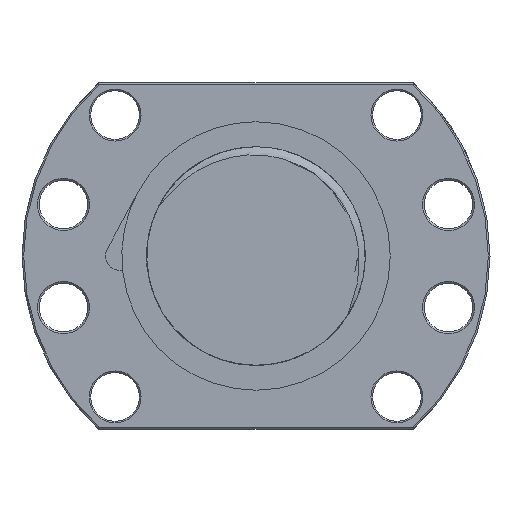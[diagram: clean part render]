
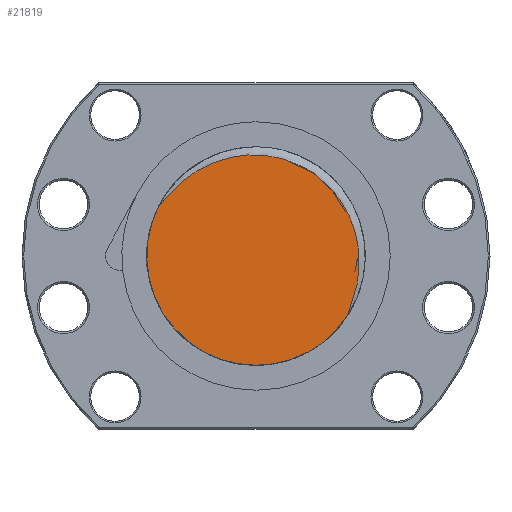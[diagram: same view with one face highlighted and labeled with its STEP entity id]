
A CAD part, left-side view. The second image highlights one B-rep face of the part: STEP entity #21819.
In plain terms, the highlighted planar face has unit normal (-1, 0, 0).
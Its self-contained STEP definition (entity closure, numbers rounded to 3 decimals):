
#7011 = CARTESIAN_POINT ( 'NONE',  ( -224., 28.085, 14.264 ) ) ;
#7012 = CARTESIAN_POINT ( 'NONE',  ( -224., 27.747, 14.64 ) ) ;
#7013 = CARTESIAN_POINT ( 'NONE',  ( -224., 27.424, 15.031 ) ) ;
#7014 = CARTESIAN_POINT ( 'NONE',  ( -224., 26.775, 15.808 ) ) ;
#7015 = CARTESIAN_POINT ( 'NONE',  ( -224., 26.451, 16.197 ) ) ;
#7016 = CARTESIAN_POINT ( 'NONE',  ( -224., 25.464, 17.351 ) ) ;
#7017 = CARTESIAN_POINT ( 'NONE',  ( -224., 24.786, 18.107 ) ) ;
#7018 = CARTESIAN_POINT ( 'NONE',  ( -224., 22.683, 20.285 ) ) ;
#7019 = CARTESIAN_POINT ( 'NONE',  ( -224., 21.185, 21.622 ) ) ;
#7020 = CARTESIAN_POINT ( 'NONE',  ( -224., 18.766, 23.421 ) ) ;
#7021 = CARTESIAN_POINT ( 'NONE',  ( -224., 17.931, 23.986 ) ) ;
#7022 = CARTESIAN_POINT ( 'NONE',  ( -224., 16.633, 24.779 ) ) ;
#7023 = CARTESIAN_POINT ( 'NONE',  ( -224., 16.194, 25.034 ) ) ;
#7024 = CARTESIAN_POINT ( 'NONE',  ( -224., 15.309, 25.521 ) ) ;
#7025 = CARTESIAN_POINT ( 'NONE',  ( -224., 14.862, 25.753 ) ) ;
#7026 = CARTESIAN_POINT ( 'NONE',  ( -224., 12.606, 26.86 ) ) ;
#7027 = CARTESIAN_POINT ( 'NONE',  ( -224., 10.732, 27.572 ) ) ;
#7028 = CARTESIAN_POINT ( 'NONE',  ( -224., 7.813, 28.367 ) ) ;
#7029 = CARTESIAN_POINT ( 'NONE',  ( -224., 6.817, 28.587 ) ) ;
#7030 = CARTESIAN_POINT ( 'NONE',  ( -224., 4.827, 28.925 ) ) ;
#7033 = CARTESIAN_POINT ( 'NONE',  ( -224., 3.83, 29.045 ) ) ;
#7034 = CARTESIAN_POINT ( 'NONE',  ( -224., 1.83, 29.187 ) ) ;
#7035 = CARTESIAN_POINT ( 'NONE',  ( -224., 0.828, 29.209 ) ) ;
#7036 = CARTESIAN_POINT ( 'NONE',  ( -224., -1.181, 29.153 ) ) ;
#7037 = CARTESIAN_POINT ( 'NONE',  ( -224., -2.19, 29.076 ) ) ;
#7038 = CARTESIAN_POINT ( 'NONE',  ( -224., -5.21, 28.692 ) ) ;
#7039 = CARTESIAN_POINT ( 'NONE',  ( -224., -7.165, 28.24 ) ) ;
#7040 = CARTESIAN_POINT ( 'NONE',  ( -224., -10.015, 27.278 ) ) ;
#7041 = CARTESIAN_POINT ( 'NONE',  ( -224., -10.95, 26.909 ) ) ;
#7042 = CARTESIAN_POINT ( 'NONE',  ( -224., -12.332, 26.283 ) ) ;
#7043 = CARTESIAN_POINT ( 'NONE',  ( -224., -12.791, 26.062 ) ) ;
#7044 = CARTESIAN_POINT ( 'NONE',  ( -224., -13.691, 25.598 ) ) ;
#7045 = CARTESIAN_POINT ( 'NONE',  ( -224., -14.134, 25.356 ) ) ;
#7046 = CARTESIAN_POINT ( 'NONE',  ( -224., -16.31, 24.094 ) ) ;
#7047 = CARTESIAN_POINT ( 'NONE',  ( -224., -17.933, 22.921 ) ) ;
#7048 = CARTESIAN_POINT ( 'NONE',  ( -224., -19.816, 21.253 ) ) ;
#7049 = CARTESIAN_POINT ( 'NONE',  ( -224., -20.186, 20.909 ) ) ;
#7050 = CARTESIAN_POINT ( 'NONE',  ( -224., -20.909, 20.201 ) ) ;
#7051 = CARTESIAN_POINT ( 'NONE',  ( -224., -21.264, 19.836 ) ) ;
#7058 = CARTESIAN_POINT ( 'NONE',  ( -224., -22.294, 18.722 ) ) ;
#7059 = CARTESIAN_POINT ( 'NONE',  ( -224., -22.937, 17.951 ) ) ;
#7060 = CARTESIAN_POINT ( 'NONE',  ( -224., -24.747, 15.552 ) ) ;
#7061 = CARTESIAN_POINT ( 'NONE',  ( -224., -25.793, 13.843 ) ) ;
#7062 = CARTESIAN_POINT ( 'NONE',  ( -224., -26.893, 11.564 ) ) ;
#7063 = CARTESIAN_POINT ( 'NONE',  ( -224., -27.103, 11.101 ) ) ;
#7064 = CARTESIAN_POINT ( 'NONE',  ( -224., -27.496, 10.17 ) ) ;
#7065 = CARTESIAN_POINT ( 'NONE',  ( -224., -27.681, 9.702 ) ) ;
#7066 = CARTESIAN_POINT ( 'NONE',  ( -224., -28.199, 8.288 ) ) ;
#7067 = CARTESIAN_POINT ( 'NONE',  ( -224., -28.497, 7.335 ) ) ;
#7068 = CARTESIAN_POINT ( 'NONE',  ( -224., -29.252, 4.442 ) ) ;
#7069 = CARTESIAN_POINT ( 'NONE',  ( -224., -29.571, 2.47 ) ) ;
#7070 = CARTESIAN_POINT ( 'NONE',  ( -224., -29.737, -0.05 ) ) ;
#7071 = CARTESIAN_POINT ( 'NONE',  ( -224., -29.758, -0.558 ) ) ;
#7072 = CARTESIAN_POINT ( 'NONE',  ( -224., -29.778, -1.569 ) ) ;
#7073 = CARTESIAN_POINT ( 'NONE',  ( -224., -29.775, -2.073 ) ) ;
#7074 = CARTESIAN_POINT ( 'NONE',  ( -224., -29.734, -3.581 ) ) ;
#7075 = CARTESIAN_POINT ( 'NONE',  ( -224., -29.662, -4.579 ) ) ;
#7076 = CARTESIAN_POINT ( 'NONE',  ( -224., -29.314, -7.554 ) ) ;
#7077 = CARTESIAN_POINT ( 'NONE',  ( -224., -28.906, -9.512 ) ) ;
#7078 = CARTESIAN_POINT ( 'NONE',  ( -224., -28.073, -12.416 ) ) ;
#7079 = CARTESIAN_POINT ( 'NONE',  ( -224., -27.757, -13.38 ) ) ;
#7080 = CARTESIAN_POINT ( 'NONE',  ( -224., -27.252, -14.81 ) ) ;
#7081 = CARTESIAN_POINT ( 'NONE',  ( -224., -27.078, -15.285 ) ) ;
#7082 = CARTESIAN_POINT ( 'NONE',  ( -224., -26.729, -16.235 ) ) ;
#7083 = CARTESIAN_POINT ( 'NONE',  ( -224., -26.553, -16.709 ) ) ;
#7084 = CARTESIAN_POINT ( 'NONE',  ( -224., -26.396, -17.19 ) ) ;
#7085 = B_SPLINE_CURVE_WITH_KNOTS ( 'NONE', 3,
 ( #7084, #7083, #7082, #7081, #7080, #7079, #7078, #7077, #7076, #7075, #7074, #7073, #7072, #7071, #7070, #7069, #7068, #7067, #7066, #7065, #7064, #7063, #7062, #7061, #7060, #7059, #7058, #7051, #7050, #7049, #7048, #7047, #7046, #7045, #7044, #7043, #7042, #7041, #7040, #7039, #7038, #7037, #7036, #7035, #7034, #7033, #7030, #7029, #7028, #7027, #7026, #7025, #7024, #7023, #7022, #7021, #7020, #7019, #7018, #7017, #7016, #7015, #7014, #7013, #7012, #7011 ),
 .UNSPECIFIED., .F., .F.,
 ( 4, 2, 2, 2, 2, 2, 2, 2, 2, 2, 2, 2, 2, 2, 2, 2, 2, 2, 2, 2, 2, 2, 2, 2, 2, 2, 2, 2, 2, 2, 2, 2, 4 ),
 ( 0.011, 0.012, 0.014, 0.017, 0.023, 0.026, 0.027, 0.029, 0.035, 0.038, 0.039, 0.041, 0.047, 0.05, 0.051, 0.053, 0.059, 0.06, 0.062, 0.065, 0.071, 0.074, 0.077, 0.08, 0.083, 0.089, 0.09, 0.092, 0.095, 0.101, 0.104, 0.105, 0.107 ),
 .UNSPECIFIED. ) ;
#7086 = DIRECTION ( 'NONE',  ( 0., 0., -1. ) ) ;
#7087 = DIRECTION ( 'NONE',  ( 1., 0., 0. ) ) ;
#7088 = CARTESIAN_POINT ( 'NONE',  ( -224., 0., 0. ) ) ;
#7089 = AXIS2_PLACEMENT_3D ( 'NONE', #7088, #7087, #7086 ) ;
#7090 = PLANE ( 'NONE',  #7089 ) ;
#7130 = FACE_OUTER_BOUND ( 'NONE', #21820, .T. ) ;
#10363 = CARTESIAN_POINT ( 'NONE',  ( -224., -26.396, -17.19 ) ) ;
#10364 = DIRECTION ( 'NONE',  ( 0., 1., 0. ) ) ;
#10365 = DIRECTION ( 'NONE',  ( 1., 0., 0. ) ) ;
#10366 = AXIS2_PLACEMENT_3D ( 'NONE', #10373, #10365, #10364 ) ;
#10367 = CIRCLE ( 'NONE', #10366, 31.5 ) ;
#10373 = CARTESIAN_POINT ( 'NONE',  ( -224., 0., 0. ) ) ;
#13605 = DIRECTION ( 'NONE',  ( 0., 1., 0. ) ) ;
#13606 = DIRECTION ( 'NONE',  ( 1., 0., 0. ) ) ;
#13607 = CARTESIAN_POINT ( 'NONE',  ( -224., 0., 0. ) ) ;
#13608 = AXIS2_PLACEMENT_3D ( 'NONE', #13607, #13606, #13605 ) ;
#13609 = CIRCLE ( 'NONE', #13608, 31.5 ) ;
#13797 = CARTESIAN_POINT ( 'NONE',  ( -224., 0., -31.5 ) ) ;
#14285 = CARTESIAN_POINT ( 'NONE',  ( -224., 28.085, 14.264 ) ) ;
#21669 = VERTEX_POINT ( 'NONE', #13797 ) ;
#21671 = EDGE_CURVE ( 'NONE', #21669, #21716, #13609, .T. ) ;
#21716 = VERTEX_POINT ( 'NONE', #14285 ) ;
#21819 = ADVANCED_FACE ( 'NONE', ( #7130 ), #7090, .F. ) ;
#21820 = EDGE_LOOP ( 'NONE', ( #21821, #21822, #21824 ) ) ;
#21821 = ORIENTED_EDGE ( 'NONE', *, *, #22044, .F. ) ;
#21822 = ORIENTED_EDGE ( 'NONE', *, *, #21823, .T. ) ;
#21823 = EDGE_CURVE ( 'NONE', #22045, #21716, #7085, .T. ) ;
#21824 = ORIENTED_EDGE ( 'NONE', *, *, #21671, .F. ) ;
#22044 = EDGE_CURVE ( 'NONE', #22045, #21669, #10367, .T. ) ;
#22045 = VERTEX_POINT ( 'NONE', #10363 ) ;
